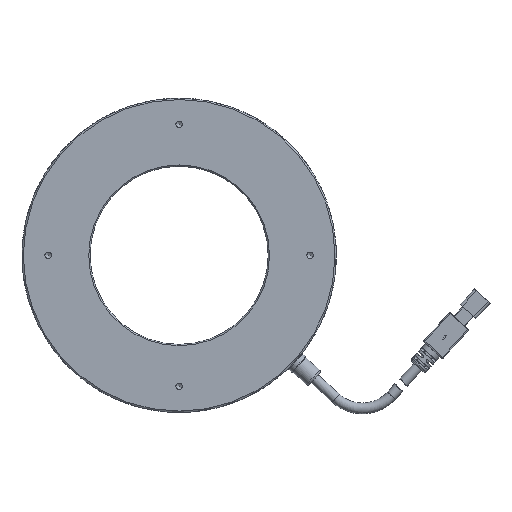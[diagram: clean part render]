
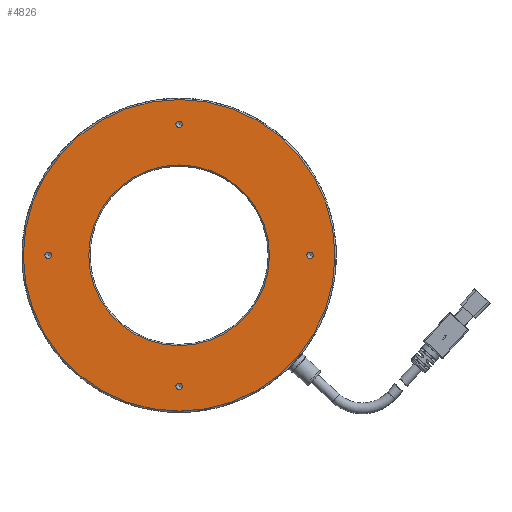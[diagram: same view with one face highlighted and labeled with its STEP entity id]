
A CAD part, front view. The second image highlights one B-rep face of the part: STEP entity #4826.
In plain terms, the highlighted planar face has unit normal (0, -1, 0).
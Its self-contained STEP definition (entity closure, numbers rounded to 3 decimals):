
#529 = CIRCLE ( 'NONE', #6629, 34.5 ) ;
#973 = CARTESIAN_POINT ( 'NONE',  ( -1.698, 2.119, 48.75 ) ) ;
#1383 = PLANE ( 'NONE',  #17452 ) ;
#2164 = DIRECTION ( 'NONE',  ( 0., 0., -1. ) ) ;
#4489 = FACE_BOUND ( 'NONE', #19233, .T. ) ;
#4826 = ADVANCED_FACE ( 'NONE', ( #9604, #10374, #6832, #15166, #4489, #31288 ), #1383, .F. ) ;
#5197 = CARTESIAN_POINT ( 'NONE',  ( 48.302, 2.119, -1.25 ) ) ;
#6179 = CARTESIAN_POINT ( 'NONE',  ( -1.698, 2.119, 59.5 ) ) ;
#6239 = EDGE_CURVE ( 'NONE', #10468, #10468, #12326, .T. ) ;
#6507 = ORIENTED_EDGE ( 'NONE', *, *, #23397, .T. ) ;
#6629 = AXIS2_PLACEMENT_3D ( 'NONE', #10822, #17745, #17858 ) ;
#6832 = FACE_BOUND ( 'NONE', #9325, .T. ) ;
#7547 = CARTESIAN_POINT ( 'NONE',  ( -1.698, 2.119, 50. ) ) ;
#8761 = DIRECTION ( 'NONE',  ( 0., 1., 0. ) ) ;
#8864 = CARTESIAN_POINT ( 'NONE',  ( 32.302, 2.119, 0. ) ) ;
#9269 = CARTESIAN_POINT ( 'NONE',  ( 48.302, 2.119, 0. ) ) ;
#9325 = EDGE_LOOP ( 'NONE', ( #23569 ) ) ;
#9488 = DIRECTION ( 'NONE',  ( 0., -1., 0. ) ) ;
#9604 = FACE_BOUND ( 'NONE', #14870, .T. ) ;
#9702 = DIRECTION ( 'NONE',  ( 0., 0., -1. ) ) ;
#10003 = EDGE_CURVE ( 'NONE', #10084, #10084, #529, .T. ) ;
#10067 = ORIENTED_EDGE ( 'NONE', *, *, #26415, .F. ) ;
#10084 = VERTEX_POINT ( 'NONE', #30428 ) ;
#10374 = FACE_OUTER_BOUND ( 'NONE', #30751, .T. ) ;
#10435 = DIRECTION ( 'NONE',  ( 0., 0., -1. ) ) ;
#10468 = VERTEX_POINT ( 'NONE', #5197 ) ;
#10660 = CARTESIAN_POINT ( 'NONE',  ( -51.698, 2.119, 0. ) ) ;
#10692 = CIRCLE ( 'NONE', #22071, 1.25 ) ;
#10822 = CARTESIAN_POINT ( 'NONE',  ( -1.698, 2.119, 0. ) ) ;
#11506 = CIRCLE ( 'NONE', #24808, 1.25 ) ;
#11716 = EDGE_CURVE ( 'NONE', #15232, #15232, #10692, .T. ) ;
#12326 = CIRCLE ( 'NONE', #25133, 1.25 ) ;
#12441 = VERTEX_POINT ( 'NONE', #30842 ) ;
#12914 = CARTESIAN_POINT ( 'NONE',  ( -1.698, 2.119, -51.25 ) ) ;
#14179 = DIRECTION ( 'NONE',  ( 0., 0., 1. ) ) ;
#14510 = CIRCLE ( 'NONE', #18727, 59.5 ) ;
#14685 = ORIENTED_EDGE ( 'NONE', *, *, #19623, .F. ) ;
#14722 = DIRECTION ( 'NONE',  ( 0., -1., 0. ) ) ;
#14870 = EDGE_LOOP ( 'NONE', ( #22397 ) ) ;
#15166 = FACE_BOUND ( 'NONE', #28301, .T. ) ;
#15232 = VERTEX_POINT ( 'NONE', #12914 ) ;
#17452 = AXIS2_PLACEMENT_3D ( 'NONE', #8864, #8761, #14179 ) ;
#17532 = VERTEX_POINT ( 'NONE', #973 ) ;
#17745 = DIRECTION ( 'NONE',  ( 0., 1., 0. ) ) ;
#17858 = DIRECTION ( 'NONE',  ( 0., 0., 1. ) ) ;
#17871 = CIRCLE ( 'NONE', #29054, 1.25 ) ;
#18136 = DIRECTION ( 'NONE',  ( 0., -1., 0. ) ) ;
#18727 = AXIS2_PLACEMENT_3D ( 'NONE', #29200, #29091, #28992 ) ;
#19233 = EDGE_LOOP ( 'NONE', ( #14685 ) ) ;
#19484 = VERTEX_POINT ( 'NONE', #6179 ) ;
#19623 = EDGE_CURVE ( 'NONE', #17532, #17532, #11506, .T. ) ;
#21114 = EDGE_LOOP ( 'NONE', ( #32653 ) ) ;
#22071 = AXIS2_PLACEMENT_3D ( 'NONE', #27226, #25043, #9702 ) ;
#22397 = ORIENTED_EDGE ( 'NONE', *, *, #10003, .T. ) ;
#23397 = EDGE_CURVE ( 'NONE', #19484, #19484, #14510, .T. ) ;
#23569 = ORIENTED_EDGE ( 'NONE', *, *, #11716, .F. ) ;
#24808 = AXIS2_PLACEMENT_3D ( 'NONE', #7547, #14722, #2164 ) ;
#25043 = DIRECTION ( 'NONE',  ( 0., -1., 0. ) ) ;
#25133 = AXIS2_PLACEMENT_3D ( 'NONE', #9269, #9488, #29887 ) ;
#26415 = EDGE_CURVE ( 'NONE', #12441, #12441, #17871, .T. ) ;
#27226 = CARTESIAN_POINT ( 'NONE',  ( -1.698, 2.119, -50. ) ) ;
#28301 = EDGE_LOOP ( 'NONE', ( #10067 ) ) ;
#28992 = DIRECTION ( 'NONE',  ( 0., 0., 1. ) ) ;
#29054 = AXIS2_PLACEMENT_3D ( 'NONE', #10660, #18136, #10435 ) ;
#29091 = DIRECTION ( 'NONE',  ( 0., -1., 0. ) ) ;
#29200 = CARTESIAN_POINT ( 'NONE',  ( -1.698, 2.119, 0. ) ) ;
#29887 = DIRECTION ( 'NONE',  ( 0., 0., -1. ) ) ;
#30428 = CARTESIAN_POINT ( 'NONE',  ( -1.698, 2.119, 34.5 ) ) ;
#30751 = EDGE_LOOP ( 'NONE', ( #6507 ) ) ;
#30842 = CARTESIAN_POINT ( 'NONE',  ( -51.698, 2.119, -1.25 ) ) ;
#31288 = FACE_BOUND ( 'NONE', #21114, .T. ) ;
#32653 = ORIENTED_EDGE ( 'NONE', *, *, #6239, .F. ) ;
